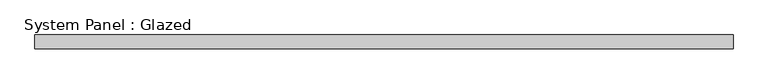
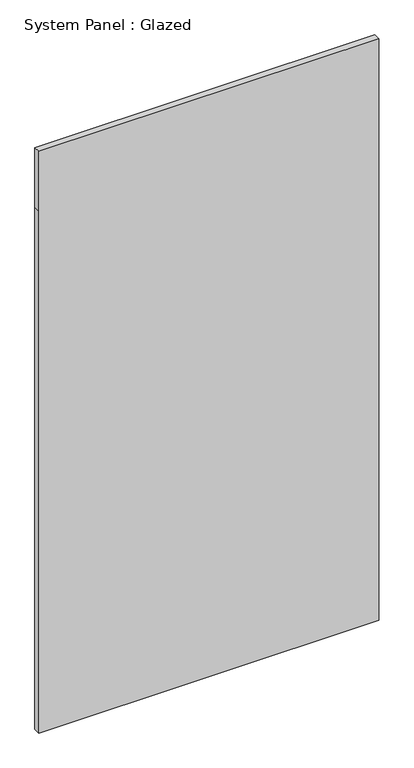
"""IFC4 building model written with IfcOpenShell, lengths in millimetres: plate geometry, System Panel : Glazed."""

from ifc_helpers import new_model, si_unit, frame, origin, place, context, project, spatial, polyline, outline, extrude, source, transform, mapped, element, save


def system_panel_glazed_212f699e(model_context):
    return source(origin(), model_context, "Body", "SweptSolid", [
        extrude(outline(polyline([(0.0, -647.7), (0.0, 647.7), (2101.85, 647.7), (2343.15, 647.7), (2343.15, -647.7), (2101.85, -647.7), (0.0, -647.7)])), frame((0.0, 19.05, 0.0), z_axis=(0.0, 1.0, 0.0), x_axis=(0.0, 0.0, 1.0)), (0.0, 0.0, 1.0), 25.4),
    ])


if __name__ == "__main__":
    model = new_model("IFC4")
    model_context = context("Model", 3, world=origin())
    ifc_project = project(units=[si_unit("LENGTHUNIT", "METRE", prefix="MILLI")], contexts=[model_context])
    site = spatial("IfcSite", under=ifc_project)
    building = spatial("IfcBuilding", under=site)
    placement = place(None, origin())
    system_panel_glazed_shape = system_panel_glazed_212f699e(model_context)
    element("IfcPlate", 1, ObjectType="System Panel : Glazed", at=placement, inside=building, context=model_context, shape_type="MappedRepresentation", body=[
        mapped(system_panel_glazed_shape, transform((0.0, 0.0, 0.0), x_axis=(1.0, 0.0, 0.0), y_axis=(0.0, 1.0, 0.0), z_axis=(0.0, 0.0, 1.0))),
    ])
    save(model, "model.ifc")
